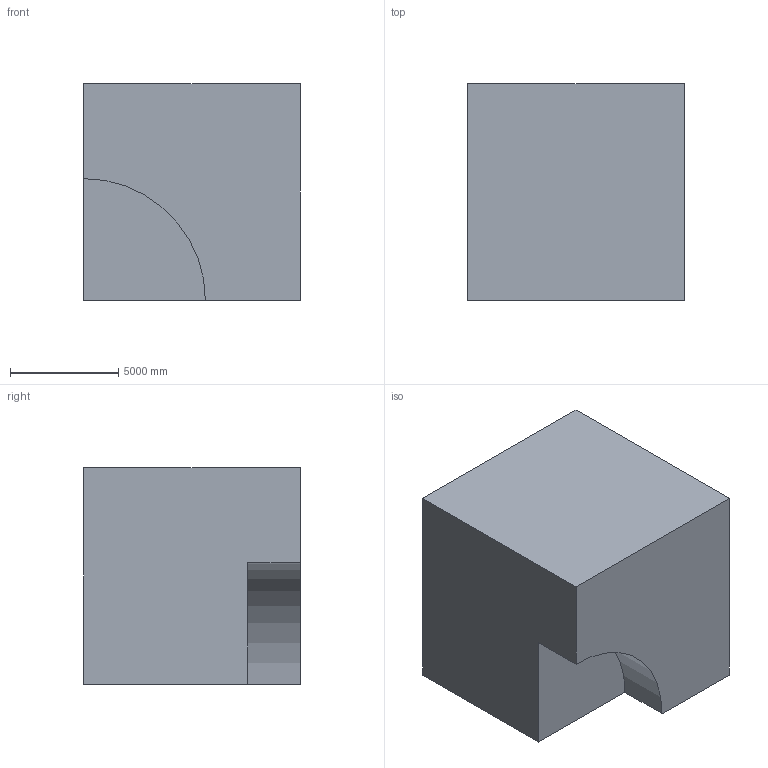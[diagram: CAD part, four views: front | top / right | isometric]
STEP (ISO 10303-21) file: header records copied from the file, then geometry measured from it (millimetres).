
FILE_DESCRIPTION (( 'STEP AP203' ), '1' );
FILE_NAME ('103.STEP', '2022-09-06T15:05:25', ( 'user' ), ( '' ), 'SwSTEP 2.0', 'SolidWorks 2021', '' );
FILE_SCHEMA (( 'CONFIG_CONTROL_DESIGN' ));
Length unit declared in the file: centimetre
Products named in the file (1): 103
Bounding box: 10000 x 10000 x 10000 mm (x, y, z)
Volume: 878261092242.4 mm3; surface area: 680921431.8 mm2
Topology: 1 solids, 1 shells, 15 faces, 36 edges, 24 vertices
Faces by surface type: plane 14, cylinder 1
Entity records: 509 total; most frequent: CARTESIAN_POINT 76, ORIENTED_EDGE 72, DIRECTION 70, EDGE_CURVE 36, VECTOR 34, LINE 34, VERTEX_POINT 24, AXIS2_PLACEMENT_3D 18
